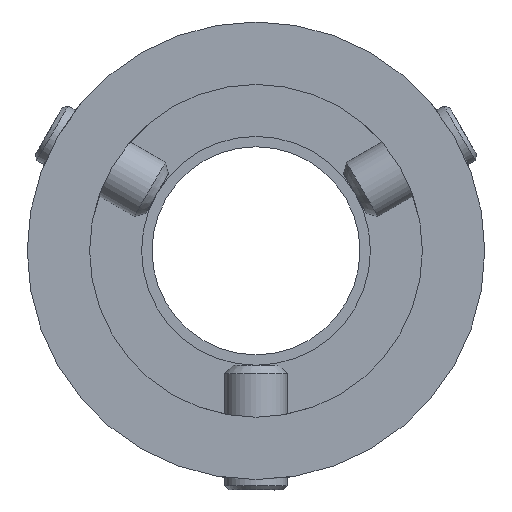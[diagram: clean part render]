
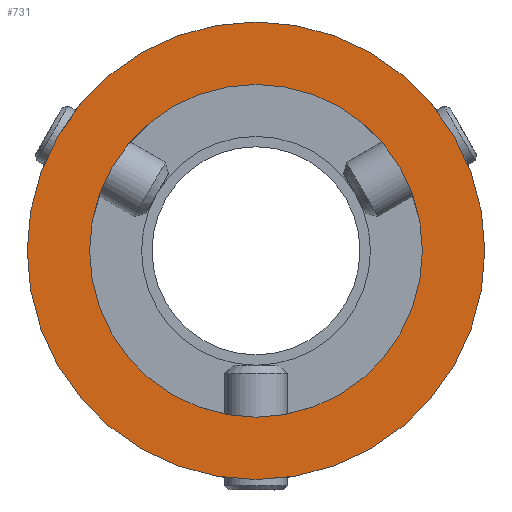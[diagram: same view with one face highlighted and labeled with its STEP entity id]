
A CAD part, front view. The second image highlights one B-rep face of the part: STEP entity #731.
In plain terms, the highlighted planar face has unit normal (0, -1, 0).
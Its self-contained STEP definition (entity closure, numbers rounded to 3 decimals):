
#37 = DIRECTION ( 'NONE',  ( 0., 0., -1. ) ) ;
#116 = CARTESIAN_POINT ( 'NONE',  ( 0., 0., 0. ) ) ;
#163 = EDGE_LOOP ( 'NONE', ( #229, #873 ) ) ;
#229 = ORIENTED_EDGE ( 'NONE', *, *, #1384, .T. ) ;
#239 = EDGE_CURVE ( 'NONE', #1212, #990, #1655, .T. ) ;
#243 = CIRCLE ( 'NONE', #921, 11. ) ;
#274 = CARTESIAN_POINT ( 'NONE',  ( 0., 0., 11. ) ) ;
#289 = AXIS2_PLACEMENT_3D ( 'NONE', #428, #1594, #774 ) ;
#316 = DIRECTION ( 'NONE',  ( 0., 0., -1. ) ) ;
#353 = EDGE_CURVE ( 'NONE', #381, #611, #1617, .T. ) ;
#381 = VERTEX_POINT ( 'NONE', #607 ) ;
#428 = CARTESIAN_POINT ( 'NONE',  ( 0., 0., 0. ) ) ;
#511 = CARTESIAN_POINT ( 'NONE',  ( 5., 0., 0. ) ) ;
#607 = CARTESIAN_POINT ( 'NONE',  ( 0., 0., 8. ) ) ;
#611 = VERTEX_POINT ( 'NONE', #1164 ) ;
#731 = ADVANCED_FACE ( 'NONE', ( #1955, #932 ), #1862, .T. ) ;
#738 = CARTESIAN_POINT ( 'NONE',  ( 0., 0., 0. ) ) ;
#774 = DIRECTION ( 'NONE',  ( 0., 0., -1. ) ) ;
#848 = DIRECTION ( 'NONE',  ( 0., -1., 0. ) ) ;
#855 = DIRECTION ( 'NONE',  ( 0., 0., -1. ) ) ;
#856 = AXIS2_PLACEMENT_3D ( 'NONE', #1029, #1319, #2046 ) ;
#873 = ORIENTED_EDGE ( 'NONE', *, *, #239, .T. ) ;
#921 = AXIS2_PLACEMENT_3D ( 'NONE', #738, #2080, #37 ) ;
#932 = FACE_OUTER_BOUND ( 'NONE', #163, .T. ) ;
#990 = VERTEX_POINT ( 'NONE', #2083 ) ;
#1029 = CARTESIAN_POINT ( 'NONE',  ( 0., 0., 0. ) ) ;
#1117 = ORIENTED_EDGE ( 'NONE', *, *, #353, .F. ) ;
#1164 = CARTESIAN_POINT ( 'NONE',  ( 0., 0., -8. ) ) ;
#1212 = VERTEX_POINT ( 'NONE', #274 ) ;
#1319 = DIRECTION ( 'NONE',  ( 0., -1., 0. ) ) ;
#1322 = DIRECTION ( 'NONE',  ( 0., -1., 0. ) ) ;
#1384 = EDGE_CURVE ( 'NONE', #990, #1212, #243, .T. ) ;
#1594 = DIRECTION ( 'NONE',  ( 0., -1., 0. ) ) ;
#1617 = CIRCLE ( 'NONE', #289, 8. ) ;
#1621 = EDGE_CURVE ( 'NONE', #611, #381, #1867, .T. ) ;
#1655 = CIRCLE ( 'NONE', #2188, 11. ) ;
#1665 = AXIS2_PLACEMENT_3D ( 'NONE', #511, #848, #855 ) ;
#1735 = EDGE_LOOP ( 'NONE', ( #2162, #1117 ) ) ;
#1862 = PLANE ( 'NONE',  #1665 ) ;
#1867 = CIRCLE ( 'NONE', #856, 8. ) ;
#1955 = FACE_BOUND ( 'NONE', #1735, .T. ) ;
#2046 = DIRECTION ( 'NONE',  ( 0., 0., -1. ) ) ;
#2080 = DIRECTION ( 'NONE',  ( 0., -1., 0. ) ) ;
#2083 = CARTESIAN_POINT ( 'NONE',  ( 0., 0., -11. ) ) ;
#2162 = ORIENTED_EDGE ( 'NONE', *, *, #1621, .F. ) ;
#2188 = AXIS2_PLACEMENT_3D ( 'NONE', #116, #1322, #316 ) ;
